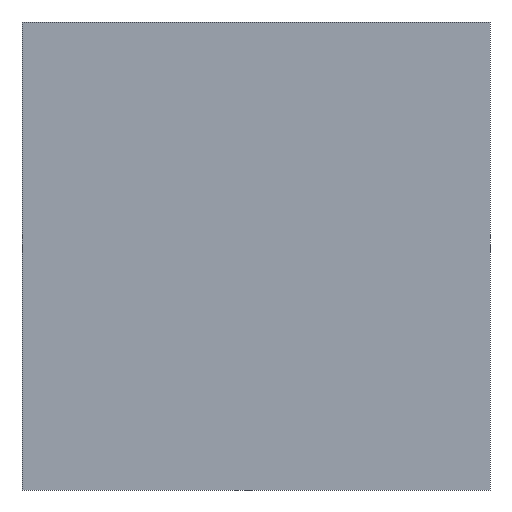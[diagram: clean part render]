
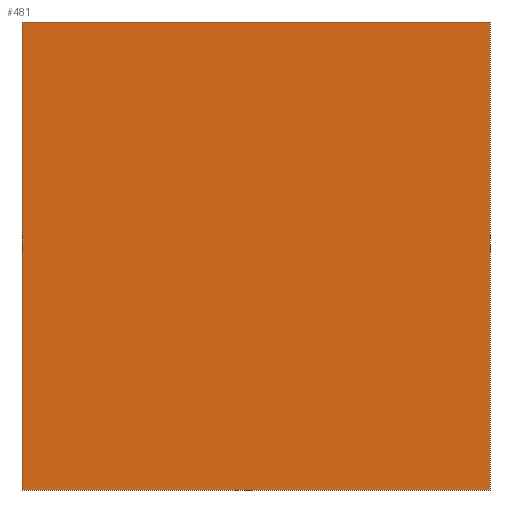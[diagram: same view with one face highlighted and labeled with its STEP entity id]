
A CAD part, front view. The second image highlights one B-rep face of the part: STEP entity #481.
In plain terms, the highlighted planar face has unit normal (0, -1, 0).
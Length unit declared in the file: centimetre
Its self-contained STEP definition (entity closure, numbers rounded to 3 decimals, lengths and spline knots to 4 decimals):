
#8 = ORIENTED_EDGE ( 'NONE', *, *, #391, .F. ) ;
#10 = VECTOR ( 'NONE', #146, 100. ) ;
#12 = CARTESIAN_POINT ( 'NONE',  ( 1000., 0., 0. ) ) ;
#19 = CARTESIAN_POINT ( 'NONE',  ( 1000., 0., 1000. ) ) ;
#30 = VECTOR ( 'NONE', #434, 100. ) ;
#52 = EDGE_CURVE ( 'NONE', #277, #64, #546, .T. ) ;
#64 = VERTEX_POINT ( 'NONE', #12 ) ;
#70 = ORIENTED_EDGE ( 'NONE', *, *, #83, .F. ) ;
#83 = EDGE_CURVE ( 'NONE', #392, #296, #494, .T. ) ;
#130 = AXIS2_PLACEMENT_3D ( 'NONE', #281, #144, #220 ) ;
#143 = EDGE_CURVE ( 'NONE', #392, #277, #358, .T. ) ;
#144 = DIRECTION ( 'NONE',  ( 0., 1., 0. ) ) ;
#146 = DIRECTION ( 'NONE',  ( 0., 0., -1. ) ) ;
#183 = CARTESIAN_POINT ( 'NONE',  ( 0., 0., 0. ) ) ;
#188 = PLANE ( 'NONE',  #130 ) ;
#220 = DIRECTION ( 'NONE',  ( 0., 0., 1. ) ) ;
#242 = ORIENTED_EDGE ( 'NONE', *, *, #52, .T. ) ;
#272 = CARTESIAN_POINT ( 'NONE',  ( 0., 0., 1000. ) ) ;
#276 = FACE_OUTER_BOUND ( 'NONE', #335, .T. ) ;
#277 = VERTEX_POINT ( 'NONE', #522 ) ;
#280 = DIRECTION ( 'NONE',  ( 1., 0., 0. ) ) ;
#281 = CARTESIAN_POINT ( 'NONE',  ( 0., 0., 1000. ) ) ;
#296 = VERTEX_POINT ( 'NONE', #477 ) ;
#323 = DIRECTION ( 'NONE',  ( 1., 0., 0. ) ) ;
#335 = EDGE_LOOP ( 'NONE', ( #242, #8, #70, #381 ) ) ;
#337 = VECTOR ( 'NONE', #280, 100. ) ;
#358 = LINE ( 'NONE', #272, #10 ) ;
#381 = ORIENTED_EDGE ( 'NONE', *, *, #143, .T. ) ;
#391 = EDGE_CURVE ( 'NONE', #296, #64, #537, .T. ) ;
#392 = VERTEX_POINT ( 'NONE', #543 ) ;
#434 = DIRECTION ( 'NONE',  ( 0., 0., -1. ) ) ;
#477 = CARTESIAN_POINT ( 'NONE',  ( 1000., 0., 1000. ) ) ;
#481 = ADVANCED_FACE ( 'NONE', ( #276 ), #188, .F. ) ;
#493 = VECTOR ( 'NONE', #323, 100. ) ;
#494 = LINE ( 'NONE', #541, #337 ) ;
#522 = CARTESIAN_POINT ( 'NONE',  ( 0., 0., 0. ) ) ;
#537 = LINE ( 'NONE', #19, #30 ) ;
#541 = CARTESIAN_POINT ( 'NONE',  ( 0., 0., 1000. ) ) ;
#543 = CARTESIAN_POINT ( 'NONE',  ( 0., 0., 1000. ) ) ;
#546 = LINE ( 'NONE', #183, #493 ) ;
